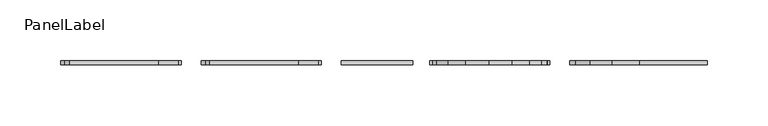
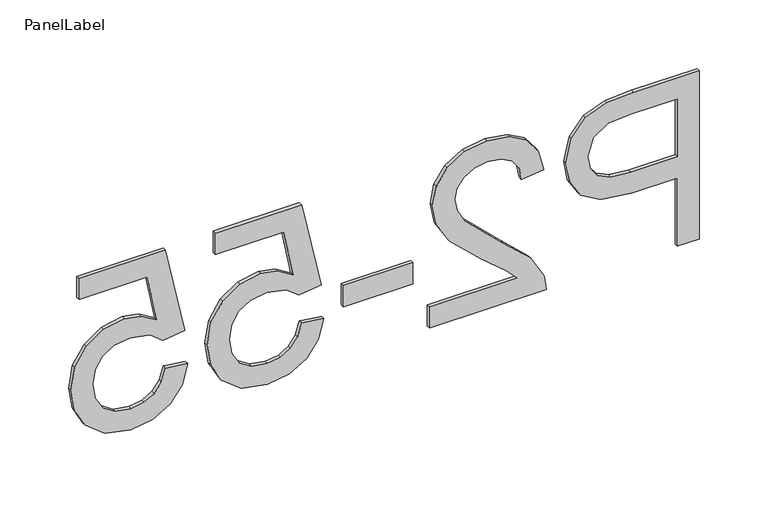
"""IFC4 building model written with IfcOpenShell, lengths in millimetres: fastener geometry, PanelLabel : Miranda."""

from ifc_helpers import new_model, si_unit, frame, origin, place, context, project, spatial, polyline, outline, extrude, source, transform, mapped, element, save


def panellabel_4ae247b8(model_context):
    return source(origin(), model_context, "Body", "SweptSolid", [
        extrude(outline(polyline([(1310.9113766, 260.2523077), (1460.9667612, 260.2523077), (1460.9667612, 204.6409615), (1459.5380112, 182.2205769), (1452.5224823, 163.9948558), (1438.0151747, 152.1801923), (1417.554742, 147.7107692), (1399.8693814, 150.7285457), (1385.1331073, 159.781875), (1375.1868093, 176.7116466), (1371.8713766, 203.35875), (1371.8713766, 241.4953846), (1310.9113766, 241.4953846), (1310.9113766, 260.2523077)]), holes=[polyline([(1390.6282997, 241.4953846), (1390.6282997, 202.2597115), (1392.3501266, 185.6275962), (1397.5156073, 174.6372115), (1405.8041891, 168.5100721), (1416.8953189, 166.4676923), (1432.4283958, 171.2851442), (1440.9276266, 183.9424038), (1442.2098381, 202.6993269), (1442.2098381, 241.4953846), (1390.6282997, 241.4953846)])]), frame((0.0, 60.325, 0.0), z_axis=(0.0, 1.0, 0.0), x_axis=(0.0, 0.0, 1.0)), (0.0, 0.0, 1.0), 3.175),
        extrude(outline(polyline([(1329.6682997, 32.8246154), (1310.9113766, 32.8246154), (1310.9113766, 131.2984615), (1323.8433958, 129.2835577), (1343.7543093, 117.8901923), (1365.4969535, 94.4074038), (1396.7462804, 62.0224038), (1407.5168573, 55.9502163), (1417.9943573, 53.9261538), (1427.3865569, 55.8357332), (1435.1943093, 61.5644712), (1440.4559559, 70.3705168), (1442.2098381, 81.5120192), (1440.4971698, 93.2121995), (1435.359165, 102.3021635), (1427.1988045, 108.1682813), (1416.4190689, 110.1969231), (1418.7636843, 128.9538462), (1436.9069775, 124.4065745), (1450.1595497, 114.5747596), (1458.2649583, 99.9712861), (1460.9667612, 81.1090385), (1457.9627227, 62.1094111), (1448.9506073, 47.5334135), (1435.4873862, 38.2602764), (1419.1300304, 35.1692308), (1401.3439247, 38.5029808), (1382.9533477, 49.5849519), (1357.254165, 76.4564423), (1339.211617, 98.0342308), (1329.6682997, 106.4968269), (1329.6682997, 32.8246154)])), frame((0.0, 60.325, 0.0), z_axis=(0.0, 1.0, 0.0), x_axis=(0.0, 0.0, 1.0)), (0.0, 0.0, 1.0), 3.175),
        extrude(outline(polyline([(-39.8584615, 63.5), (18.7569231, 63.5), (18.7569231, 60.325), (-39.8584615, 60.325), (-39.8584615, 63.5)])), frame((0.0, 0.0, 1355.4590689), z_axis=(0.0, 0.0, 1.0), x_axis=(1.0, 0.0, 0.0)), (0.0, 0.0, 1.0), 18.7569231),
        extrude(outline(polyline([(1350.7698381, -56.2707692), (1353.1144535, -75.0276923), (1341.8538886, -78.4713462), (1333.7896939, -84.4794231), (1328.9401867, -93.0244471), (1327.3236843, -104.0789423), (1329.5721338, -117.5238462), (1336.3174823, -127.5983654), (1346.7812444, -133.8903606), (1360.1849343, -135.9876923), (1372.8055593, -134.0231611), (1382.4587804, -128.1295673), (1388.5859198, -118.2611178), (1390.6282997, -104.3720192), (1387.3678189, -87.9047596), (1378.9052227, -77.3723077), (1381.2498381, -58.6153846), (1458.6221458, -75.0276923), (1458.6221458, -147.7107692), (1439.8652227, -147.7107692), (1439.8652227, -90.1944231), (1398.5413766, -82.1714423), (1406.6742612, -95.5705529), (1409.3852227, -109.6107692), (1406.0239968, -127.1358534), (1395.9403189, -141.684375), (1380.5720977, -151.4795553), (1361.357242, -154.7446154), (1342.6003189, -151.8046875), (1326.5543573, -142.9849038), (1313.0636602, -126.0963462), (1308.5667612, -104.0056731), (1311.4563165, -85.5830409), (1320.1249823, -70.9062981), (1333.5653069, -60.8455168), (1350.7698381, -56.2707692)])), frame((0.0, 60.325, 0.0), z_axis=(0.0, 1.0, 0.0), x_axis=(0.0, 0.0, 1.0)), (0.0, 0.0, 1.0), 3.175),
        extrude(outline(polyline([(1350.7698381, -171.1569231), (1353.1144535, -189.9138462), (1341.8538886, -193.3575), (1333.7896939, -199.3655769), (1328.9401867, -207.910601), (1327.3236843, -218.9650962), (1329.5721338, -232.41), (1336.3174823, -242.4845192), (1346.7812444, -248.7765144), (1360.1849343, -250.8738462), (1372.8055593, -248.9093149), (1382.4587804, -243.0157212), (1388.5859198, -233.1472716), (1390.6282997, -219.2581731), (1387.3678189, -202.7909135), (1378.9052227, -192.2584615), (1381.2498381, -173.5015385), (1458.6221458, -189.9138462), (1458.6221458, -262.5969231), (1439.8652227, -262.5969231), (1439.8652227, -205.0805769), (1398.5413766, -197.0575962), (1406.6742612, -210.4567067), (1409.3852227, -224.4969231), (1406.0239968, -242.0220072), (1395.9403189, -256.5705288), (1380.5720977, -266.3657091), (1361.357242, -269.6307692), (1342.6003189, -266.6908413), (1326.5543573, -257.8710577), (1313.0636602, -240.9825), (1308.5667612, -218.8918269), (1311.4563165, -200.4691947), (1320.1249823, -185.7924519), (1333.5653069, -175.7316707), (1350.7698381, -171.1569231)])), frame((0.0, 60.325, 0.0), z_axis=(0.0, 1.0, 0.0), x_axis=(0.0, 0.0, 1.0)), (0.0, 0.0, 1.0), 3.175),
    ])


if __name__ == "__main__":
    model = new_model("IFC4")
    model_context = context("Model", 3, world=origin())
    ifc_project = project(units=[si_unit("LENGTHUNIT", "METRE", prefix="MILLI")], contexts=[model_context])
    site = spatial("IfcSite", under=ifc_project)
    building = spatial("IfcBuilding", under=site)
    placement = place(None, origin())
    panellabel_shape = panellabel_4ae247b8(model_context)
    element("IfcFastener", 1, ObjectType="PanelLabel : Miranda", at=placement, inside=building, context=model_context, shape_type="MappedRepresentation", body=[
        mapped(panellabel_shape, transform((0.0, 0.0, 0.0), x_axis=(1.0, 0.0, 0.0), y_axis=(0.0, 1.0, 0.0), z_axis=(0.0, 0.0, 1.0))),
    ])
    save(model, "model.ifc")
